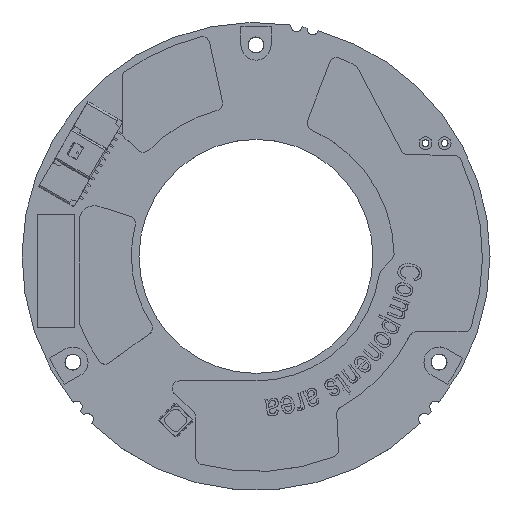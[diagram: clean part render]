
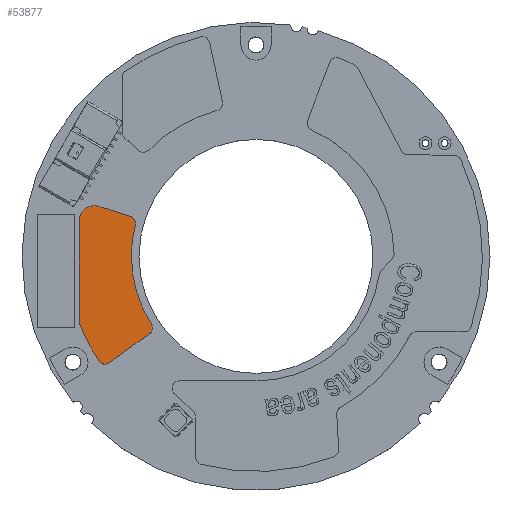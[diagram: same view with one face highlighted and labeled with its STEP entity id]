
A CAD part, top view. The second image highlights one B-rep face of the part: STEP entity #53877.
In plain terms, the highlighted planar face has unit normal (0, 0, 1).
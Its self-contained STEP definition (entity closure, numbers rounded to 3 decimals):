
#883 = CARTESIAN_POINT ( 'NONE',  ( 10.59, 10.92, 2.3 ) ) ;
#2361 = CARTESIAN_POINT ( 'NONE',  ( 30., 25., 2.3 ) ) ;
#2800 = EDGE_CURVE ( 'NONE', #19954, #35697, #81570, .T. ) ;
#3701 = ORIENTED_EDGE ( 'NONE', *, *, #83080, .T. ) ;
#5164 = CARTESIAN_POINT ( 'NONE',  ( 9.2, 31.618, 2.3 ) ) ;
#5403 = CIRCLE ( 'NONE', #38734, 2. ) ;
#5529 = CARTESIAN_POINT ( 'NONE',  ( 10.003, 11.729, 2.3 ) ) ;
#5876 = PLANE ( 'NONE',  #5980 ) ;
#5980 = AXIS2_PLACEMENT_3D ( 'NONE', #6902, #61787, #45595 ) ;
#6902 = CARTESIAN_POINT ( 'NONE',  ( 30., 25., 2.3 ) ) ;
#10204 = ORIENTED_EDGE ( 'NONE', *, *, #70295, .T. ) ;
#11265 = DIRECTION ( 'NONE',  ( 0., 0., 1. ) ) ;
#12560 = DIRECTION ( 'NONE',  ( 1., 0., 0. ) ) ;
#12718 = CIRCLE ( 'NONE', #67799, 1. ) ;
#12800 = CARTESIAN_POINT ( 'NONE',  ( 8.594, 29.712, 2.3 ) ) ;
#12911 = ORIENTED_EDGE ( 'NONE', *, *, #78742, .T. ) ;
#13639 = CIRCLE ( 'NONE', #65421, 25. ) ;
#13835 = VERTEX_POINT ( 'NONE', #45523 ) ;
#14978 = DIRECTION ( 'NONE',  ( 0., 0., 1. ) ) ;
#15291 = CIRCLE ( 'NONE', #40396, 1. ) ;
#16944 = CARTESIAN_POINT ( 'NONE',  ( 9.17, 11.176, 2.3 ) ) ;
#18393 = CARTESIAN_POINT ( 'NONE',  ( 6.594, 16.217, 2.3 ) ) ;
#18923 = CARTESIAN_POINT ( 'NONE',  ( 7.594, 16.4, 2.3 ) ) ;
#19954 = VERTEX_POINT ( 'NONE', #40791 ) ;
#19981 = DIRECTION ( 'NONE',  ( 1., 0., 0. ) ) ;
#21466 = EDGE_CURVE ( 'NONE', #13835, #55823, #36187, .T. ) ;
#22507 = VERTEX_POINT ( 'NONE', #883 ) ;
#22508 = CARTESIAN_POINT ( 'NONE',  ( 6.594, 16.4, 2.3 ) ) ;
#22871 = DIRECTION ( 'NONE',  ( 1., 0., 0. ) ) ;
#23092 = LINE ( 'NONE', #62807, #37729 ) ;
#24480 = CARTESIAN_POINT ( 'NONE',  ( 6.66, 16.042, 2.3 ) ) ;
#24903 = DIRECTION ( 'NONE',  ( 0., 0., -1. ) ) ;
#25427 = EDGE_CURVE ( 'NONE', #33743, #33380, #15291, .T. ) ;
#27916 = VERTEX_POINT ( 'NONE', #16944 ) ;
#28769 = EDGE_LOOP ( 'NONE', ( #64934, #53206, #64108, #12911, #40042, #49746, #3701, #65220, #43479, #10204, #71718 ) ) ;
#30162 = CARTESIAN_POINT ( 'NONE',  ( 15.271, 15.55, 2.3 ) ) ;
#33380 = VERTEX_POINT ( 'NONE', #34788 ) ;
#33642 = AXIS2_PLACEMENT_3D ( 'NONE', #2361, #82730, #56768 ) ;
#33743 = VERTEX_POINT ( 'NONE', #77811 ) ;
#34788 = CARTESIAN_POINT ( 'NONE',  ( 16.112, 16.09, 2.3 ) ) ;
#35697 = VERTEX_POINT ( 'NONE', #22508 ) ;
#35768 = VERTEX_POINT ( 'NONE', #56461 ) ;
#36187 = CIRCLE ( 'NONE', #89525, 16.5 ) ;
#37729 = VECTOR ( 'NONE', #63301, 1000. ) ;
#38467 = EDGE_CURVE ( 'NONE', #56659, #27916, #13639, .T. ) ;
#38635 = EDGE_CURVE ( 'NONE', #33380, #13835, #78651, .T. ) ;
#38734 = AXIS2_PLACEMENT_3D ( 'NONE', #12800, #11265, #50458 ) ;
#40042 = ORIENTED_EDGE ( 'NONE', *, *, #87434, .T. ) ;
#40396 = AXIS2_PLACEMENT_3D ( 'NONE', #30162, #14978, #22871 ) ;
#40571 = CARTESIAN_POINT ( 'NONE',  ( 30., 25., 2.3 ) ) ;
#40791 = CARTESIAN_POINT ( 'NONE',  ( 6.594, 29.712, 2.3 ) ) ;
#42145 = AXIS2_PLACEMENT_3D ( 'NONE', #47194, #54014, #85780 ) ;
#43479 = ORIENTED_EDGE ( 'NONE', *, *, #70405, .T. ) ;
#44923 = DIRECTION ( 'NONE',  ( 0., -1., 0. ) ) ;
#45523 = CARTESIAN_POINT ( 'NONE',  ( 13.5, 25., 2.3 ) ) ;
#45595 = DIRECTION ( 'NONE',  ( 1., 0., 0. ) ) ;
#47194 = CARTESIAN_POINT ( 'NONE',  ( 13.048, 29.344, 2.3 ) ) ;
#49746 = ORIENTED_EDGE ( 'NONE', *, *, #2800, .T. ) ;
#50458 = DIRECTION ( 'NONE',  ( -1., 0., 0. ) ) ;
#50806 = DIRECTION ( 'NONE',  ( 0., 0., 1. ) ) ;
#51654 = CARTESIAN_POINT ( 'NONE',  ( 14.016, 29.096, 2.3 ) ) ;
#51785 = CARTESIAN_POINT ( 'NONE',  ( 30., 25., 2.3 ) ) ;
#52817 = VERTEX_POINT ( 'NONE', #5164 ) ;
#53206 = ORIENTED_EDGE ( 'NONE', *, *, #21466, .T. ) ;
#53877 = ADVANCED_FACE ( 'NONE', ( #85209 ), #5876, .T. ) ;
#54014 = DIRECTION ( 'NONE',  ( 0., 0., 1. ) ) ;
#55823 = VERTEX_POINT ( 'NONE', #51654 ) ;
#56461 = CARTESIAN_POINT ( 'NONE',  ( 13.351, 30.297, 2.3 ) ) ;
#56659 = VERTEX_POINT ( 'NONE', #24480 ) ;
#56768 = DIRECTION ( 'NONE',  ( 1., 0., 0. ) ) ;
#61787 = DIRECTION ( 'NONE',  ( 0., 0., 1. ) ) ;
#62807 = CARTESIAN_POINT ( 'NONE',  ( 14.277, 30.003, 2.3 ) ) ;
#62822 = VECTOR ( 'NONE', #75509, 1000. ) ;
#62984 = DIRECTION ( 'NONE',  ( 0., 0., 1. ) ) ;
#63301 = DIRECTION ( 'NONE',  ( -0.953, 0.303, 0. ) ) ;
#64108 = ORIENTED_EDGE ( 'NONE', *, *, #88929, .T. ) ;
#64934 = ORIENTED_EDGE ( 'NONE', *, *, #38635, .T. ) ;
#65220 = ORIENTED_EDGE ( 'NONE', *, *, #38467, .T. ) ;
#65421 = AXIS2_PLACEMENT_3D ( 'NONE', #51785, #99266, #12560 ) ;
#67799 = AXIS2_PLACEMENT_3D ( 'NONE', #5529, #62984, #86932 ) ;
#69091 = AXIS2_PLACEMENT_3D ( 'NONE', #18923, #50806, #19981 ) ;
#70295 = EDGE_CURVE ( 'NONE', #22507, #33743, #91183, .T. ) ;
#70405 = EDGE_CURVE ( 'NONE', #27916, #22507, #12718, .T. ) ;
#71718 = ORIENTED_EDGE ( 'NONE', *, *, #25427, .T. ) ;
#75509 = DIRECTION ( 'NONE',  ( 0.809, 0.587, 0. ) ) ;
#76474 = VECTOR ( 'NONE', #44923, 1000. ) ;
#77811 = CARTESIAN_POINT ( 'NONE',  ( 15.858, 14.741, 2.3 ) ) ;
#78651 = CIRCLE ( 'NONE', #33642, 16.5 ) ;
#78742 = EDGE_CURVE ( 'NONE', #35768, #52817, #23092, .T. ) ;
#81570 = LINE ( 'NONE', #18393, #76474 ) ;
#82127 = CIRCLE ( 'NONE', #42145, 1. ) ;
#82730 = DIRECTION ( 'NONE',  ( 0., 0., -1. ) ) ;
#83080 = EDGE_CURVE ( 'NONE', #35697, #56659, #102336, .T. ) ;
#85209 = FACE_OUTER_BOUND ( 'NONE', #28769, .T. ) ;
#85780 = DIRECTION ( 'NONE',  ( 1., 0., 0. ) ) ;
#86932 = DIRECTION ( 'NONE',  ( 1., 0., 0. ) ) ;
#87434 = EDGE_CURVE ( 'NONE', #52817, #19954, #5403, .T. ) ;
#88580 = DIRECTION ( 'NONE',  ( 1., 0., 0. ) ) ;
#88929 = EDGE_CURVE ( 'NONE', #55823, #35768, #82127, .T. ) ;
#89525 = AXIS2_PLACEMENT_3D ( 'NONE', #40571, #24903, #88580 ) ;
#90671 = CARTESIAN_POINT ( 'NONE',  ( 16.644, 15.311, 2.3 ) ) ;
#91183 = LINE ( 'NONE', #90671, #62822 ) ;
#99266 = DIRECTION ( 'NONE',  ( 0., 0., 1. ) ) ;
#102336 = CIRCLE ( 'NONE', #69091, 1. ) ;
